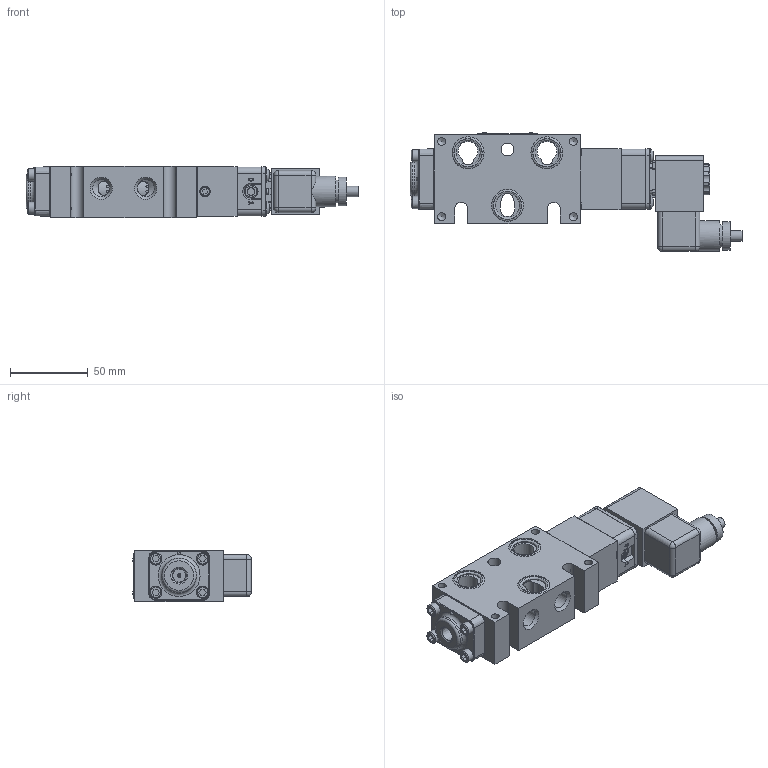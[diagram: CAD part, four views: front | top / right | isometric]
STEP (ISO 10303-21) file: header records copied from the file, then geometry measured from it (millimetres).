
FILE_DESCRIPTION(/* description */ (''),/* implementation_level */ '2;1');
FILE_NAME(/* name */ 'EBSR2TQZ.stp',/* time_stamp */ '2026-09-22T06:47:20-04:00',/* author */ ('rmckenna'),/* organization */ (''),/* preprocessor_version */ 'ST-DEVELOPER v20.2',/* originating_system */ 'Autodesk Inventor 2027',/* authorisation */ '');
FILE_SCHEMA (('AUTOMOTIVE_DESIGN { 1 0 10303 214 3 1 1 }'));
Length unit declared in the file: centimetre
Products named in the file (1): Part10
Bounding box: 213.83 x 76.44 x 33.32 mm (x, y, z)
Volume: 252543.3 mm3; surface area: 86456.3 mm2
Topology: 2 solids, 36 shells, 1503 faces, 3527 edges, 2227 vertices
Faces by surface type: plane 630, cylinder 428, cone 257, torus 120, bspline 57, sphere 11
Full cylindrical faces by diameter (mm): 1.016 x1, 1.3 x1, 1.397 x1, 1.5 x2, 2.032 x8, 2.07 x2, 2.261 x2, 2.35 x4, 2.362 x2, 2.381 x2, 2.778 x2, 2.8 x1, 2.819 x1, 3 x4, 3.048 x3, 3.175 x2, 3.353 x1, 3.4 x1, 3.683 x9, 3.988 x1, 4.191 x2, 4.305 x1, 4.826 x8, 4.953 x1, 4.978 x1, 5.15 x4, 5.156 x16, 5.159 x4, 5.5 x1, 5.944 x1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
Entity records: 48121 total; most frequent: CARTESIAN_POINT 11656, DIRECTION 7489, ORIENTED_EDGE 7006, EDGE_CURVE 3503, AXIS2_PLACEMENT_3D 2935, VERTEX_POINT 2226, EDGE_LOOP 1719, LINE 1619
